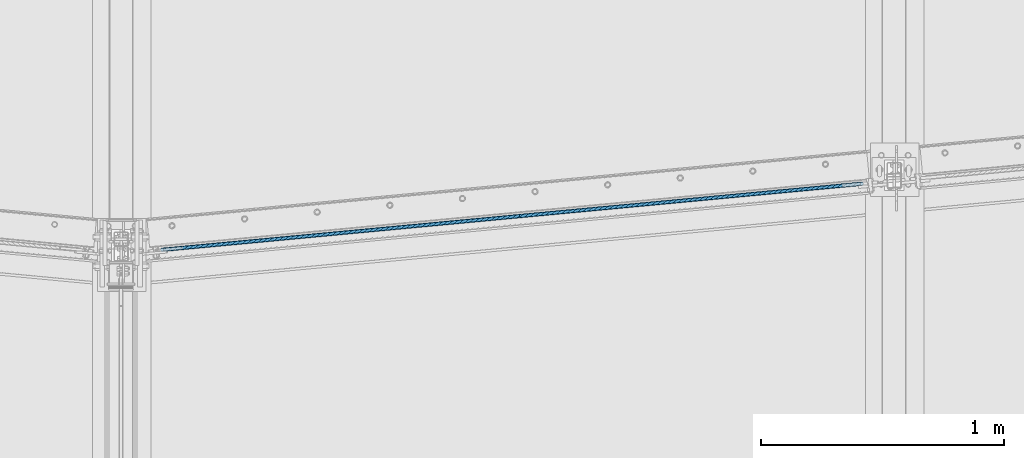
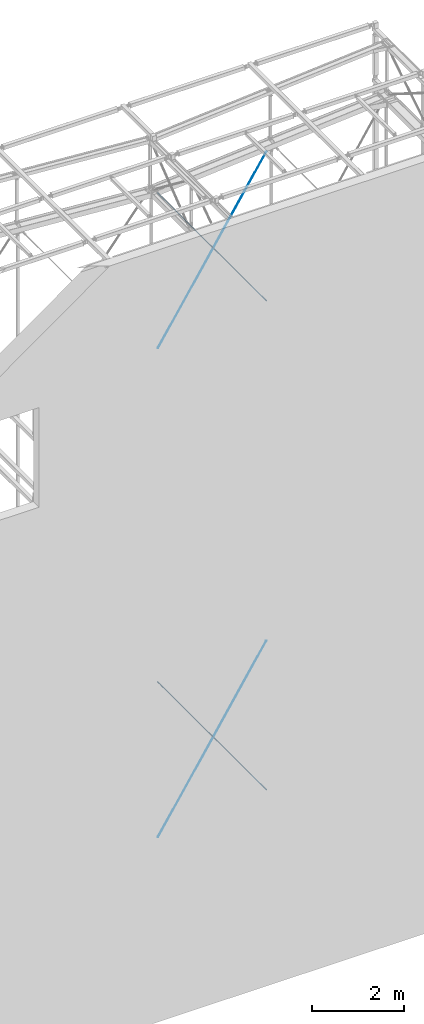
# One storey, part 24 of 271: 4 members, 4 elements without a shape of their own.
"""IFC2X3 building model written with IfcOpenShell, lengths in millimetres."""

import ifcopenshell
import ifcopenshell.guid

model = None  # the IFC model being written
_history = None  # IfcOwnerHistory: only IFC2X3 demands one
_inside = {}  # id of a spatial element -> (the spatial element, [elements in it])
_under = {}  # id of a project, library or spatial element -> (it, [spatial elements below it])
_declared = {}  # id of a project -> (the project, [libraries it declares])
_typed = {}  # id of a type object -> (the type object, [elements of that type])
_made_of = {}  # id of a material, layer set ... -> (it, [elements and type objects made of it])


def new_model(schema):
    """Start an empty IFC model of exactly this schema.

    Asked for "IFC4X3", IfcOpenShell would pick the latest addendum, in which some entities
    have other attributes; the version numbers below select the first issue.
    IFC2X3 requires an IfcOwnerHistory on every rooted entity: one is made here for all.
    """
    global model, _history
    if schema == "IFC4X3":
        model = ifcopenshell.file(schema_version=(4, 3, 0, 0))
    else:
        model = ifcopenshell.file(schema=schema)
    _inside.clear()
    _under.clear()
    _declared.clear()
    _typed.clear()
    _made_of.clear()
    _history = None
    if model.schema == "IFC2X3":
        org = make("IfcOrganization", Name="unknown")
        user = make(
            "IfcPersonAndOrganization",
            ThePerson=make("IfcPerson", FamilyName="unknown"),
            TheOrganization=org,
        )
        app = make(
            "IfcApplication",
            ApplicationDeveloper=org,
            Version="unknown",
            ApplicationFullName="unknown",
            ApplicationIdentifier="unknown",
        )
        _history = make(
            "IfcOwnerHistory",
            OwningUser=user,
            OwningApplication=app,
            ChangeAction="ADDED",
            CreationDate=0,
        )
    return model


def make(cls, **values):
    """One entity of the class cls with the attributes given. An attribute that is None is left unset."""
    return model.create_entity(
        cls, **{name: value for name, value in values.items() if value is not None}
    )


def rooted(cls, **values):
    """An entity with a GlobalId (a new one), such as an element, a storey or a relation."""
    return make(cls, GlobalId=ifcopenshell.guid.new(), OwnerHistory=_history, **values)


def si_unit(unit_type, name, prefix=None):
    """IfcSIUnit, for example si_unit("LENGTHUNIT", "METRE", prefix="MILLI")."""
    return make("IfcSIUnit", UnitType=unit_type, Prefix=prefix, Name=name)


def assignment(units):
    """IfcUnitAssignment: the units of a project."""
    return None if units is None else make("IfcUnitAssignment", Units=units)


def point(xyz):
    """IfcCartesianPoint."""
    return None if xyz is None else make("IfcCartesianPoint", Coordinates=xyz)


def direction(xyz):
    """IfcDirection."""
    return None if xyz is None else make("IfcDirection", DirectionRatios=xyz)


def frame(location, z_axis=None, x_axis=None):
    """IfcAxis2Placement3D, a coordinate frame: its origin and axes. An axis left out is left unset."""
    return make(
        "IfcAxis2Placement3D",
        Location=point(location),
        Axis=direction(z_axis),
        RefDirection=direction(x_axis),
    )


def frame_2d(location, x_axis=None):
    """IfcAxis2Placement2D, a coordinate frame in the plane: its origin and x axis."""
    return make(
        "IfcAxis2Placement2D", Location=point(location), RefDirection=direction(x_axis)
    )


def origin_with_axes():
    """The frame at (0, 0, 0) with the z axis (0, 0, 1) and the x axis (1, 0, 0) written out."""
    return frame((0.0, 0.0, 0.0), z_axis=(0.0, 0.0, 1.0), x_axis=(1.0, 0.0, 0.0))


def origin_2d_with_axis():
    """The frame at (0, 0) in the plane with the x axis (1, 0) written out."""
    return frame_2d((0.0, 0.0), x_axis=(1.0, 0.0))


def place(relative_to, where):
    """IfcLocalPlacement: puts the frame where relative to a parent placement (None: the world)."""
    return make(
        "IfcLocalPlacement", PlacementRelTo=relative_to, RelativePlacement=where
    )


def context(
    kind, dimensions, precision=None, world=None, true_north=None, identifier=None
):
    """IfcGeometricRepresentationContext, for example the 3D "Model" context."""
    return make(
        "IfcGeometricRepresentationContext",
        ContextIdentifier=identifier,
        ContextType=kind,
        CoordinateSpaceDimension=dimensions,
        Precision=precision,
        WorldCoordinateSystem=world,
        TrueNorth=true_north,
    )


def subcontext(parent, identifier, kind, view, scale=None):
    """IfcGeometricRepresentationSubContext, for example "Body" below "Model"."""
    return make(
        "IfcGeometricRepresentationSubContext",
        ContextIdentifier=identifier,
        ContextType=kind,
        ParentContext=parent,
        TargetScale=scale,
        TargetView=view,
    )


def project(units=None, contexts=None):
    """IfcProject with its units and contexts."""
    return rooted(
        "IfcProject",
        Name="project",
        RepresentationContexts=contexts,
        UnitsInContext=assignment(units),
    )


def spatial(cls, under=None, at=None, **own):
    """A site, building, storey or space (cls), placed at a placement, below another one or the project."""
    s = rooted(cls, ObjectPlacement=at, **own)
    if under is not None:
        _under.setdefault(under.id(), (under, []))[1].append(s)
    return s


def profile(cls, at=None, kind="AREA", **sizes):
    """A parametric profile (cls). Its sizes go by their IFC names, for example OverallWidth=200.0."""
    return make(cls, ProfileType=kind, Position=at, **sizes)


def circle(**sizes):
    """IfcCircleProfileDef."""
    return profile("IfcCircleProfileDef", **sizes)


def extrude(swept, where, along, depth):
    """IfcExtrudedAreaSolid: the profile swept, set in the frame where, extruded along a direction by depth."""
    return make(
        "IfcExtrudedAreaSolid",
        SweptArea=swept,
        Position=where,
        ExtrudedDirection=direction(along),
        Depth=depth,
    )


def clip(a, b, op="DIFFERENCE"):
    """IfcBooleanClippingResult: the solid a cut by the half space b."""
    return make(
        "IfcBooleanClippingResult", Operator=op, FirstOperand=a, SecondOperand=b
    )


def halfspace(plane, agree):
    """IfcHalfSpaceSolid: all space on one side of the plane z = 0 of the frame plane."""
    return make(
        "IfcHalfSpaceSolid",
        BaseSurface=make("IfcPlane", Position=plane),
        AgreementFlag=agree,
    )


def shape(context_of_items, identifier, shape_type, items):
    """IfcShapeRepresentation: the items that make up one representation, for example the "Body"."""
    return make(
        "IfcShapeRepresentation",
        ContextOfItems=context_of_items,
        RepresentationIdentifier=identifier,
        RepresentationType=shape_type,
        Items=items,
    )


def material(Name=None, Category=None):
    """IfcMaterial."""
    return make("IfcMaterial", Name=Name, Category=Category)


def made_of(thing, what):
    """Note that an element or type object is made of a material, layer set ...; save() writes the relation."""
    if what is not None:
        _made_of.setdefault(what.id(), (what, []))[1].append(thing)
    return thing


def type_object(cls, material=None, **own):
    """A type object (cls), such as IfcWallType, which elements share."""
    return made_of(rooted(cls, **own), material)


def element(
    cls,
    number,
    at=None,
    inside=None,
    cuts=None,
    type_object=None,
    material=None,
    context=None,
    identifier="Body",
    shape_type=None,
    held_by="IfcProductDefinitionShape",
    body=None,
    shapes=None,
    **own,
):
    """One element of the class cls, such as IfcWall. Its Tag is "e" and its number.

    at: its placement. inside: the storey or other place that contains it. cuts: it is an
    opening in that element (IfcRelVoidsElement). A single representation is given by context,
    identifier, shape_type and body (its items); several are given by shapes. held_by: the class
    of the entity that holds the representations. save() writes the other relations.
    """
    e = rooted(cls, Tag="e%d" % number, ObjectPlacement=at, **own)
    if body is not None:
        shapes = [shape(context, identifier, shape_type, body)]
    if shapes is not None:
        e.Representation = make(held_by, Representations=shapes)
    if inside is not None:
        _inside.setdefault(inside.id(), (inside, []))[1].append(e)
    if cuts is not None:
        rooted(
            "IfcRelVoidsElement", RelatingBuildingElement=cuts, RelatedOpeningElement=e
        )
    if type_object is not None:
        _typed.setdefault(type_object.id(), (type_object, []))[1].append(e)
    return made_of(e, material)


def aggregate(whole, parts):
    """IfcRelAggregates: a whole, such as a stair, and the parts it consists of."""
    return rooted("IfcRelAggregates", RelatingObject=whole, RelatedObjects=parts)


def save(model, path):
    """Write the relations noted so far, then the file.

    IfcRelAggregates (storeys below a building ...), IfcRelContainedInSpatialStructure (elements
    in a storey), IfcRelDefinesByType, IfcRelAssociatesMaterial and IfcRelDeclares: one each for
    every whole, place, type object, material and project.
    """
    for whole, parts in _under.values():
        aggregate(whole, parts)
    for where, things in _inside.values():
        rooted(
            "IfcRelContainedInSpatialStructure",
            RelatedElements=things,
            RelatingStructure=where,
        )
    for kind, things in _typed.values():
        rooted("IfcRelDefinesByType", RelatedObjects=things, RelatingType=kind)
    for what, things in _made_of.values():
        rooted("IfcRelAssociatesMaterial", RelatedObjects=things, RelatingMaterial=what)
    for by, libraries in _declared.values():
        rooted("IfcRelDeclares", RelatingContext=by, RelatedDefinitions=libraries)
    model.write(path)


model = new_model("IFC2X3")

# Units and contexts
model_context = context("Model", 3, precision=1e-05, world=origin_with_axes())
body_context = subcontext(model_context, "Body", "Model", "MODEL_VIEW")
ifc_project = project(units=[si_unit("LENGTHUNIT", "METRE", prefix="MILLI"), si_unit("AREAUNIT", "SQUARE_METRE"), si_unit("VOLUMEUNIT", "CUBIC_METRE"), si_unit("MASSUNIT", "GRAM", prefix="KILO"), si_unit("TIMEUNIT", "SECOND"), si_unit("PLANEANGLEUNIT", "RADIAN"), si_unit("SOLIDANGLEUNIT", "STERADIAN"), si_unit("THERMODYNAMICTEMPERATUREUNIT", "DEGREE_CELSIUS"), si_unit("LUMINOUSINTENSITYUNIT", "LUMEN")], contexts=[model_context])

# Site, building, storey
site_placement = place(None, origin_with_axes())
site = spatial("IfcSite", under=ifc_project, at=site_placement, Name="Undefined", CompositionType="ELEMENT")
building_placement = place(site_placement, origin_with_axes())
building = spatial("IfcBuilding", under=site, at=building_placement, Name="Undefined", CompositionType="ELEMENT")
storey_placement = place(building_placement, origin_with_axes())
storey = spatial("IfcBuildingStorey", under=building, at=storey_placement, Name="Undefined", CompositionType="ELEMENT", Elevation=0.0)

# Assembly, member
assembly_1_placement = place(storey_placement, origin_with_axes())
assembly_1 = element("IfcElementAssembly", 1, at=assembly_1_placement, inside=storey, AssemblyPlace="NOTDEFINED", PredefinedType="RIGID_FRAME")
ifc_material = material(Name="STEEL/S355JR")
member_type = type_object("IfcMemberType", Name="D16", PredefinedType="NOTDEFINED")
member_1_placement = place(assembly_1_placement, frame((9528.37568709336, 4005.32498425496, 14324.3499999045), z_axis=(-0.0318275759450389, 0.998497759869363, 0.0446007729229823), x_axis=(-0.580001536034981, -0.0547925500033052, 0.812770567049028)))
member_1 = element("IfcMember", 2, at=member_1_placement, type_object=member_type, material=ifc_material, Name="STĘŻENIE", ObjectType="D16", context=body_context, shape_type="Clipping", body=[
    clip(clip(extrude(circle(Radius=8.0, at=origin_2d_with_axis()), frame((5311.09291574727, 1.81898940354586e-12, -3.68531102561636e-14), z_axis=(-1.0, 0.0, 1.38777878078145e-17), x_axis=(0.0, -1.0, 0.0)), (0.0, 0.0, 1.0), 5311.09), halfspace(frame((5191.43339283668, 1.1459896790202, -14.9562792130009), z_axis=(-1.0, 0.0, 1.38777878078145e-17), x_axis=(-1.76678440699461e-11, 0.997077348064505, 0.0763987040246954)), True)), halfspace(frame((228.656683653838, 1.39136214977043, -18.1458069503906), z_axis=(1.0, 0.0, 0.0), x_axis=(-1.87596924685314e-10, -0.997073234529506, -0.0764523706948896)), True)),
])
aggregate(assembly_1, [member_1])

assembly_2_placement = place(storey_placement, origin_with_axes())
assembly_2 = element("IfcElementAssembly", 3, at=assembly_2_placement, inside=storey, AssemblyPlace="NOTDEFINED", PredefinedType="RIGID_FRAME")
member_2_placement = place(assembly_2_placement, frame((6447.9336370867, 3714.31665822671, 14321.049999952), z_axis=(-0.0317632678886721, 0.998500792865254, -0.0445787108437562), x_axis=(0.579416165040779, 0.0547372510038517, 0.813191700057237)))
member_2 = element("IfcMember", 4, at=member_2_placement, type_object=member_type, material=ifc_material, Name="STĘŻENIE", ObjectType="D16", context=body_context, shape_type="Clipping", body=[
    clip(clip(extrude(circle(Radius=8.0, at=origin_2d_with_axis()), frame((5316.4585918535, 1.59624613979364e-13, -4.91637692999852e-13), z_axis=(-1.0, 0.0, 1.38777878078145e-17), x_axis=(0.0, -1.0, 0.0)), (0.0, 0.0, 1.0), 5316.46), halfspace(frame((5087.63915497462, 1.39093847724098, -18.1308872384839), z_axis=(-1.0, 0.0, 1.38777878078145e-17), x_axis=(1.50466803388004e-11, 0.997070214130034, 0.0764917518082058)), True)), halfspace(frame((127.732315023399, 0.382200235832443, -4.98549069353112), z_axis=(1.0, 0.0, 0.0), x_axis=(4.42529199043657e-10, -0.997074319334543, -0.0764382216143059)), True)),
])
aggregate(assembly_2, [member_2])

assembly_3_placement = place(storey_placement, origin_with_axes())
assembly_3 = element("IfcElementAssembly", 5, at=assembly_3_placement, inside=storey, AssemblyPlace="NOTDEFINED", PredefinedType="RIGID_FRAME")
member_3_placement = place(assembly_3_placement, frame((9528.37568709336, 4005.32498425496, 1364.34999990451), z_axis=(-0.0318275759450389, 0.998497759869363, 0.0446007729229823), x_axis=(-0.580001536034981, -0.0547925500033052, 0.812770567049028)))
member_3 = element("IfcMember", 6, at=member_3_placement, type_object=member_type, material=ifc_material, Name="STĘŻENIE", ObjectType="D16", context=body_context, shape_type="Clipping", body=[
    clip(clip(extrude(circle(Radius=8.0, at=origin_2d_with_axis()), frame((5311.09291574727, 1.81898940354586e-12, -3.68531102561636e-14), z_axis=(-1.0, 0.0, 1.38777878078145e-17), x_axis=(0.0, -1.0, 0.0)), (0.0, 0.0, 1.0), 5311.09), halfspace(frame((5191.43339283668, 1.1459896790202, -14.9562792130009), z_axis=(-1.0, 0.0, 1.38777878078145e-17), x_axis=(-1.76678440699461e-11, 0.997077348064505, 0.0763987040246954)), True)), halfspace(frame((228.656683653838, 1.39136214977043, -18.1458069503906), z_axis=(1.0, 0.0, 0.0), x_axis=(-1.87596924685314e-10, -0.997073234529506, -0.0764523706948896)), True)),
])
aggregate(assembly_3, [member_3])

assembly_4_placement = place(storey_placement, origin_with_axes())
assembly_4 = element("IfcElementAssembly", 7, at=assembly_4_placement, inside=storey, AssemblyPlace="NOTDEFINED", PredefinedType="RIGID_FRAME")
member_4_placement = place(assembly_4_placement, frame((6447.9336370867, 3714.31665822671, 1361.04999995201), z_axis=(-0.0317632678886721, 0.998500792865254, -0.0445787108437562), x_axis=(0.579416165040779, 0.0547372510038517, 0.813191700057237)))
member_4 = element("IfcMember", 8, at=member_4_placement, type_object=member_type, material=ifc_material, Name="STĘŻENIE", ObjectType="D16", context=body_context, shape_type="Clipping", body=[
    clip(clip(extrude(circle(Radius=8.0, at=origin_2d_with_axis()), frame((5316.4585918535, 1.59624613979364e-13, -4.91637692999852e-13), z_axis=(-1.0, 0.0, 1.38777878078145e-17), x_axis=(0.0, -1.0, 0.0)), (0.0, 0.0, 1.0), 5316.46), halfspace(frame((5087.63915497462, 1.39093847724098, -18.1308872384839), z_axis=(-1.0, 0.0, 1.38777878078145e-17), x_axis=(1.50466803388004e-11, 0.997070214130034, 0.0764917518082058)), True)), halfspace(frame((127.732315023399, 0.382200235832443, -4.98549069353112), z_axis=(1.0, 0.0, 0.0), x_axis=(4.42529199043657e-10, -0.997074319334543, -0.0764382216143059)), True)),
])
aggregate(assembly_4, [member_4])

save(model, "model.ifc")
